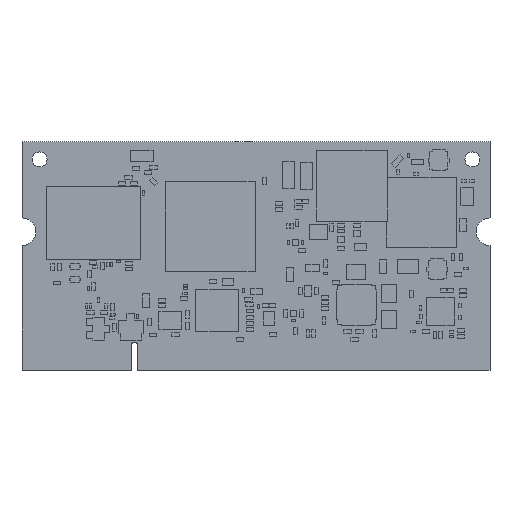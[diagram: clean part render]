
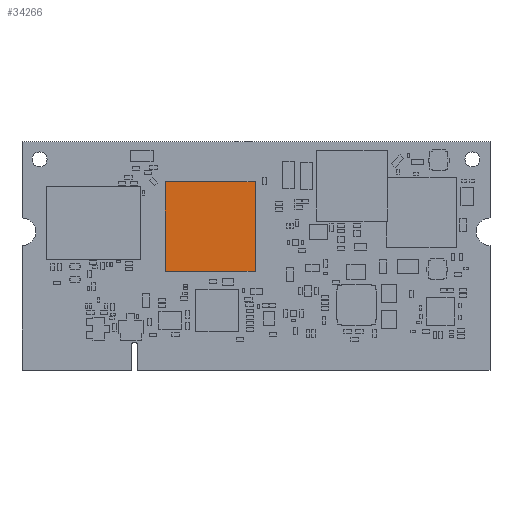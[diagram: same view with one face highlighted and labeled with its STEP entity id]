
A CAD part, top view. The second image highlights one B-rep face of the part: STEP entity #34266.
In plain terms, the highlighted planar face has unit normal (0, 0, 1).
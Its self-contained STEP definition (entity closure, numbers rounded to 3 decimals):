
#2221 = AXIS2_PLACEMENT_3D ( 'NONE', #58195, #8144, #53451 ) ;
#2671 = DIRECTION ( 'NONE',  ( -1., 0., 0. ) ) ;
#4271 = VECTOR ( 'NONE', #24523, 1000. ) ;
#4524 = DIRECTION ( 'NONE',  ( 0., 1., 0. ) ) ;
#7029 = VERTEX_POINT ( 'NONE', #37110 ) ;
#8144 = DIRECTION ( 'NONE',  ( 0., 0., -1. ) ) ;
#8474 = LINE ( 'NONE', #41427, #13938 ) ;
#12104 = EDGE_CURVE ( 'NONE', #33337, #68865, #26953, .T. ) ;
#12662 = EDGE_LOOP ( 'NONE', ( #26430, #46290, #61445, #55892 ) ) ;
#13938 = VECTOR ( 'NONE', #2671, 1000. ) ;
#14033 = EDGE_CURVE ( 'NONE', #25471, #7029, #60060, .T. ) ;
#14350 = EDGE_CURVE ( 'NONE', #7029, #33337, #8474, .T. ) ;
#14539 = CARTESIAN_POINT ( 'NONE',  ( 27.909, 48.255, 1.72 ) ) ;
#16910 = VECTOR ( 'NONE', #71160, 1000. ) ;
#24523 = DIRECTION ( 'NONE',  ( 1., 0., 0. ) ) ;
#25471 = VERTEX_POINT ( 'NONE', #38265 ) ;
#26430 = ORIENTED_EDGE ( 'NONE', *, *, #67750, .T. ) ;
#26953 = LINE ( 'NONE', #14539, #16910 ) ;
#33337 = VERTEX_POINT ( 'NONE', #33578 ) ;
#33578 = CARTESIAN_POINT ( 'NONE',  ( 27.909, 61.209, 1.72 ) ) ;
#34266 = ADVANCED_FACE ( 'NONE', ( #41456 ), #63697, .F. ) ;
#37110 = CARTESIAN_POINT ( 'NONE',  ( 40.863, 61.209, 1.72 ) ) ;
#38265 = CARTESIAN_POINT ( 'NONE',  ( 40.863, 48.255, 1.72 ) ) ;
#40598 = LINE ( 'NONE', #46810, #4271 ) ;
#41427 = CARTESIAN_POINT ( 'NONE',  ( 27.909, 61.209, 1.72 ) ) ;
#41456 = FACE_OUTER_BOUND ( 'NONE', #12662, .T. ) ;
#46290 = ORIENTED_EDGE ( 'NONE', *, *, #14033, .T. ) ;
#46810 = CARTESIAN_POINT ( 'NONE',  ( 40.863, 48.255, 1.72 ) ) ;
#48952 = VECTOR ( 'NONE', #4524, 1000. ) ;
#53451 = DIRECTION ( 'NONE',  ( -1., 0., 0. ) ) ;
#55892 = ORIENTED_EDGE ( 'NONE', *, *, #12104, .T. ) ;
#58195 = CARTESIAN_POINT ( 'NONE',  ( 0., 0., 1.72 ) ) ;
#60060 = LINE ( 'NONE', #60422, #48952 ) ;
#60422 = CARTESIAN_POINT ( 'NONE',  ( 40.863, 61.209, 1.72 ) ) ;
#61445 = ORIENTED_EDGE ( 'NONE', *, *, #14350, .T. ) ;
#63697 = PLANE ( 'NONE',  #2221 ) ;
#67750 = EDGE_CURVE ( 'NONE', #68865, #25471, #40598, .T. ) ;
#68865 = VERTEX_POINT ( 'NONE', #72049 ) ;
#71160 = DIRECTION ( 'NONE',  ( 0., -1., 0. ) ) ;
#72049 = CARTESIAN_POINT ( 'NONE',  ( 27.909, 48.255, 1.72 ) ) ;
